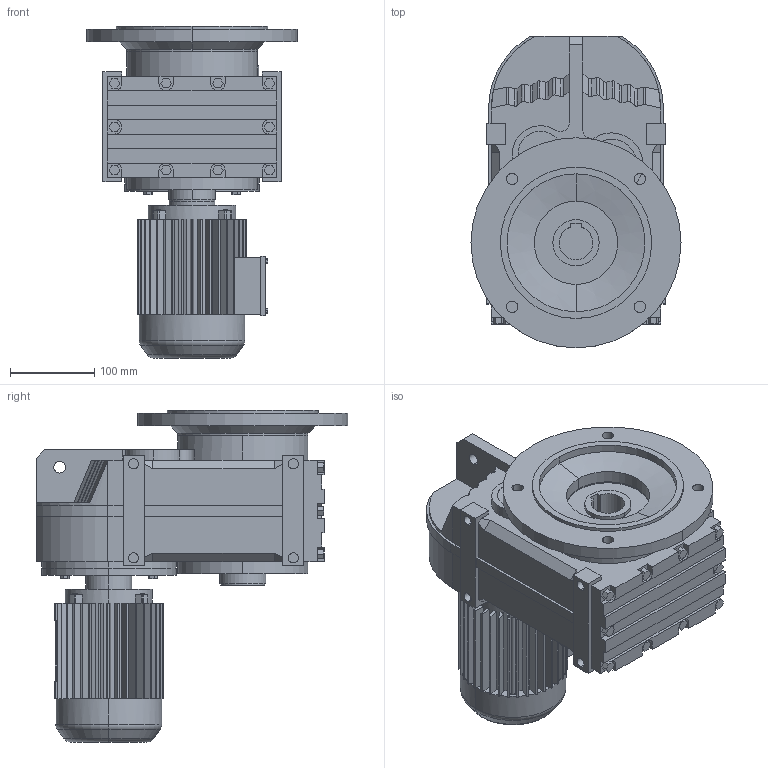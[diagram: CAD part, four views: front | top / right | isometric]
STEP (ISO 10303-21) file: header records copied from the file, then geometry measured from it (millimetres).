
FILE_DESCRIPTION(('Open CASCADE Model'),'2;1');
FILE_NAME('Open CASCADE Shape Model','2018-09-12T10:21:00',('Author'),( 'Open CASCADE'),'Open CASCADE STEP processor 6.3','Open CASCADE 6.3' ,'Unknown');
FILE_SCHEMA(('AUTOMOTIVE_DESIGN_CC2 { 1 2 10303 214 -1 1 5 4 }'));
Length unit declared in the file: millimetre
Products named in the file (5): 19_FAF67-Y63S; FA27‵157_67.step; 萇儂_160_Y63S.step; す瑩諾陑粣F_67.step; 楊擘F_67.step
Assembly tree (4 placements, depth 2):
  19_FAF67-Y63S
    FA27‵157_67.step
    萇儂_160_Y63S.step
    す瑩諾陑粣F_67.step
    楊擘F_67.step
Bounding box: 250 x 371 x 395 mm (x, y, z)
Volume: 11368822.7 mm3; surface area: 746835.8 mm2
Topology: 4 solids, 4 shells, 803 faces, 2111 edges, 1372 vertices
Faces by surface type: plane 569, cylinder 208, bspline 16, cone 6, torus 4
Entity records: 53819 total; most frequent: CARTESIAN_POINT 13278, DIRECTION 7089, ORIENTED_EDGE 4222, PCURVE 4222, DEFINITIONAL_REPRESENTATION 4222, LINE 3959, VECTOR 3959, EDGE_CURVE 2111
